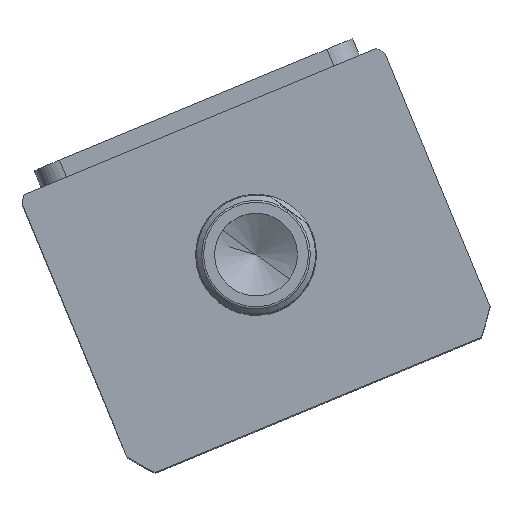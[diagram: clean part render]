
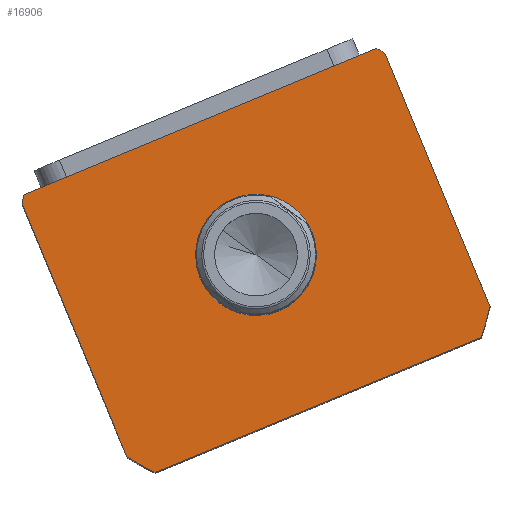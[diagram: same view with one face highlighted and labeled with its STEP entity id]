
A CAD part, top view. The second image highlights one B-rep face of the part: STEP entity #16906.
In plain terms, the highlighted planar face has unit normal (0, 0, 1) as drawn and (0, 0, -1) by its records, which use the part's own axes.
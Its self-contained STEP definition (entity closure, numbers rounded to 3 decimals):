
#56 = DIRECTION ( 'NONE',  ( 0., 0., 1. ) ) ;
#181 = CIRCLE ( 'NONE', #4495, 69.5 ) ;
#538 = ORIENTED_EDGE ( 'NONE', *, *, #4058, .F. ) ;
#830 = VERTEX_POINT ( 'NONE', #5227 ) ;
#906 = CIRCLE ( 'NONE', #3971, 17.5 ) ;
#1113 = CARTESIAN_POINT ( 'NONE',  ( 0., 0., 0. ) ) ;
#1197 = DIRECTION ( 'NONE',  ( 1., 0., 0. ) ) ;
#1229 = VERTEX_POINT ( 'NONE', #13983 ) ;
#1403 = AXIS2_PLACEMENT_3D ( 'NONE', #8396, #18633, #9889 ) ;
#1551 = CARTESIAN_POINT ( 'NONE',  ( -57., 44.5, 0. ) ) ;
#1767 = ORIENTED_EDGE ( 'NONE', *, *, #18400, .F. ) ;
#1894 = CARTESIAN_POINT ( 'NONE',  ( -57., -37.265, 0. ) ) ;
#2397 = DIRECTION ( 'NONE',  ( -1., 0., 0. ) ) ;
#2550 = CARTESIAN_POINT ( 'NONE',  ( 17.5, 2.5, 0. ) ) ;
#2879 = ORIENTED_EDGE ( 'NONE', *, *, #6857, .F. ) ;
#3243 = VECTOR ( 'NONE', #8981, 1000. ) ;
#3385 = AXIS2_PLACEMENT_3D ( 'NONE', #8847, #56, #10330 ) ;
#3507 = EDGE_LOOP ( 'NONE', ( #11233, #4949 ) ) ;
#3971 = AXIS2_PLACEMENT_3D ( 'NONE', #16096, #7341, #17563 ) ;
#4058 = EDGE_CURVE ( 'NONE', #14669, #830, #8280, .T. ) ;
#4363 = CARTESIAN_POINT ( 'NONE',  ( -55.374, 44.5, 0. ) ) ;
#4495 = AXIS2_PLACEMENT_3D ( 'NONE', #5664, #15877, #7123 ) ;
#4624 = ORIENTED_EDGE ( 'NONE', *, *, #16897, .F. ) ;
#4949 = ORIENTED_EDGE ( 'NONE', *, *, #7170, .T. ) ;
#4996 = VERTEX_POINT ( 'NONE', #14954 ) ;
#5186 = AXIS2_PLACEMENT_3D ( 'NONE', #18731, #9984, #1197 ) ;
#5227 = CARTESIAN_POINT ( 'NONE',  ( -57., 42.265, 0. ) ) ;
#5385 = CARTESIAN_POINT ( 'NONE',  ( -51.198, -44.5, 0. ) ) ;
#5470 = CARTESIAN_POINT ( 'NONE',  ( -17.5, 2.5, 0. ) ) ;
#5664 = CARTESIAN_POINT ( 'NONE',  ( 0., 2.5, 0. ) ) ;
#5736 = LINE ( 'NONE', #11184, #13507 ) ;
#5955 = CIRCLE ( 'NONE', #12696, 69.5 ) ;
#6225 = LINE ( 'NONE', #7501, #3243 ) ;
#6681 = CIRCLE ( 'NONE', #3385, 69.5 ) ;
#6857 = EDGE_CURVE ( 'NONE', #4996, #14669, #5736, .T. ) ;
#7123 = DIRECTION ( 'NONE',  ( 1., 0., 0. ) ) ;
#7170 = EDGE_CURVE ( 'NONE', #7181, #15609, #15095, .T. ) ;
#7181 = VERTEX_POINT ( 'NONE', #5470 ) ;
#7341 = DIRECTION ( 'NONE',  ( 0., 0., 1. ) ) ;
#7393 = ORIENTED_EDGE ( 'NONE', *, *, #10915, .F. ) ;
#7501 = CARTESIAN_POINT ( 'NONE',  ( -57., -44.5, 0. ) ) ;
#7870 = EDGE_LOOP ( 'NONE', ( #7393, #4624, #1767, #9952, #16513, #14522, #538, #2879 ) ) ;
#8209 = DIRECTION ( 'NONE',  ( 0., 0., 1. ) ) ;
#8280 = CIRCLE ( 'NONE', #5186, 69.5 ) ;
#8396 = CARTESIAN_POINT ( 'NONE',  ( 0., 2.5, 0. ) ) ;
#8475 = DIRECTION ( 'NONE',  ( 0., 0., 1. ) ) ;
#8590 = VERTEX_POINT ( 'NONE', #1894 ) ;
#8847 = CARTESIAN_POINT ( 'NONE',  ( 0., 2.5, 0. ) ) ;
#8981 = DIRECTION ( 'NONE',  ( 1., 0., 0. ) ) ;
#9734 = VERTEX_POINT ( 'NONE', #14182 ) ;
#9889 = DIRECTION ( 'NONE',  ( 1., 0., 0. ) ) ;
#9952 = ORIENTED_EDGE ( 'NONE', *, *, #18514, .F. ) ;
#9984 = DIRECTION ( 'NONE',  ( 0., 0., 1. ) ) ;
#10047 = FACE_BOUND ( 'NONE', #3507, .T. ) ;
#10330 = DIRECTION ( 'NONE',  ( 1., 0., 0. ) ) ;
#10497 = LINE ( 'NONE', #14301, #17804 ) ;
#10673 = EDGE_CURVE ( 'NONE', #8590, #11844, #5955, .T. ) ;
#10728 = VECTOR ( 'NONE', #11809, 1000. ) ;
#10915 = EDGE_CURVE ( 'NONE', #1229, #4996, #181, .T. ) ;
#11184 = CARTESIAN_POINT ( 'NONE',  ( -57., 44.5, 0. ) ) ;
#11233 = ORIENTED_EDGE ( 'NONE', *, *, #13498, .T. ) ;
#11809 = DIRECTION ( 'NONE',  ( 0., -1., 0. ) ) ;
#11844 = VERTEX_POINT ( 'NONE', #5385 ) ;
#12696 = AXIS2_PLACEMENT_3D ( 'NONE', #16963, #8209, #18448 ) ;
#13498 = EDGE_CURVE ( 'NONE', #15609, #7181, #906, .T. ) ;
#13507 = VECTOR ( 'NONE', #2397, 1000. ) ;
#13983 = CARTESIAN_POINT ( 'NONE',  ( 57., 42.265, 0. ) ) ;
#14182 = CARTESIAN_POINT ( 'NONE',  ( 57., -37.265, 0. ) ) ;
#14301 = CARTESIAN_POINT ( 'NONE',  ( 57., 44.5, 0. ) ) ;
#14522 = ORIENTED_EDGE ( 'NONE', *, *, #16174, .F. ) ;
#14669 = VERTEX_POINT ( 'NONE', #4363 ) ;
#14954 = CARTESIAN_POINT ( 'NONE',  ( 55.374, 44.5, 0. ) ) ;
#15095 = CIRCLE ( 'NONE', #1403, 17.5 ) ;
#15251 = AXIS2_PLACEMENT_3D ( 'NONE', #1113, #8475, #18714 ) ;
#15609 = VERTEX_POINT ( 'NONE', #2550 ) ;
#15764 = DIRECTION ( 'NONE',  ( 0., 1., 0. ) ) ;
#15877 = DIRECTION ( 'NONE',  ( 0., 0., 1. ) ) ;
#16096 = CARTESIAN_POINT ( 'NONE',  ( 0., 2.5, 0. ) ) ;
#16174 = EDGE_CURVE ( 'NONE', #830, #8590, #18513, .T. ) ;
#16513 = ORIENTED_EDGE ( 'NONE', *, *, #10673, .F. ) ;
#16897 = EDGE_CURVE ( 'NONE', #9734, #1229, #10497, .T. ) ;
#16906 = ADVANCED_FACE ( 'NONE', ( #10047, #18263 ), #17237, .F. ) ;
#16963 = CARTESIAN_POINT ( 'NONE',  ( 0., 2.5, 0. ) ) ;
#17237 = PLANE ( 'NONE',  #15251 ) ;
#17563 = DIRECTION ( 'NONE',  ( 1., 0., 0. ) ) ;
#17804 = VECTOR ( 'NONE', #15764, 1000. ) ;
#18118 = VERTEX_POINT ( 'NONE', #18707 ) ;
#18263 = FACE_OUTER_BOUND ( 'NONE', #7870, .T. ) ;
#18400 = EDGE_CURVE ( 'NONE', #18118, #9734, #6681, .T. ) ;
#18448 = DIRECTION ( 'NONE',  ( 1., 0., 0. ) ) ;
#18513 = LINE ( 'NONE', #1551, #10728 ) ;
#18514 = EDGE_CURVE ( 'NONE', #11844, #18118, #6225, .T. ) ;
#18633 = DIRECTION ( 'NONE',  ( 0., 0., 1. ) ) ;
#18707 = CARTESIAN_POINT ( 'NONE',  ( 51.198, -44.5, 0. ) ) ;
#18714 = DIRECTION ( 'NONE',  ( 1., 0., 0. ) ) ;
#18731 = CARTESIAN_POINT ( 'NONE',  ( 0., 2.5, 0. ) ) ;
